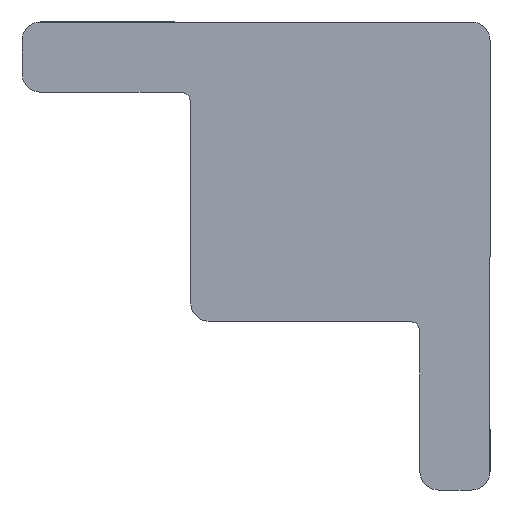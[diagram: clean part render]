
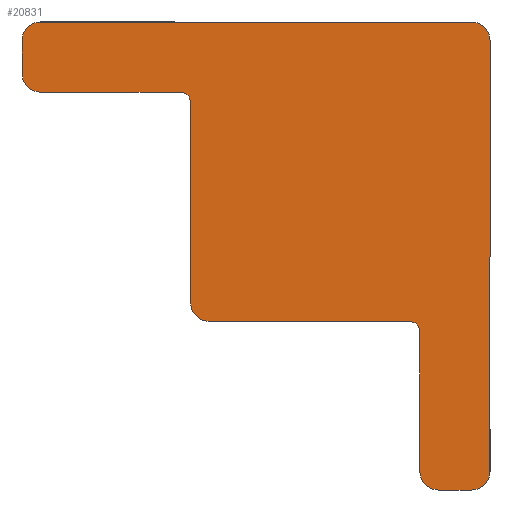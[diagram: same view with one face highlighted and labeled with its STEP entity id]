
A CAD part, front view. The second image highlights one B-rep face of the part: STEP entity #20831.
In plain terms, the highlighted planar face has unit normal (0, -1, 0).
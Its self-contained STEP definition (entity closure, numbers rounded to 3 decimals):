
#841=CARTESIAN_POINT(' ',(0.,0.,-2.));
#842=VERTEX_POINT(' ',#841);
#856=CARTESIAN_POINT(' ',(0.,0.,-2.));
#861=DIRECTION(' ',(0.,0.,-1.));
#866=VECTOR(' ',#861,1.);
#871=LINE('',#856,#866);
#876=CARTESIAN_POINT(' ',(0.,0.,-48.));
#877=VERTEX_POINT(' ',#876);
#881=EDGE_CURVE(' ',#842,#877,#871,.T.);
#19366=CARTESIAN_POINT(' ',(-2.,0.,-48.));
#19371=DIRECTION(' ',(-0.,-1.,0.));
#19376=DIRECTION(' ',(0.,0.,-1.));
#19381=AXIS2_PLACEMENT_3D(' ',#19366,#19371,#19376);
#19386=CIRCLE('',#19381,2.);
#19391=CARTESIAN_POINT(' ',(-2.,0.,-50.));
#19392=VERTEX_POINT(' ',#19391);
#19396=EDGE_CURVE(' ',#19392,#877,#19386,.T.);
#20231=CARTESIAN_POINT(' ',(-2.,0.,0.));
#20232=VERTEX_POINT(' ',#20231);
#20246=CARTESIAN_POINT(' ',(-2.,0.,-2.));
#20251=DIRECTION(' ',(-0.,-1.,-0.));
#20256=DIRECTION(' ',(1.,0.,0.));
#20261=AXIS2_PLACEMENT_3D(' ',#20246,#20251,#20256);
#20266=CIRCLE('',#20261,2.);
#20271=EDGE_CURVE(' ',#842,#20232,#20266,.T.);
#20301=DIRECTION(' ',(0.,-1.,0.));
#20306=CARTESIAN_POINT(' ',(-50.,0.,0.));
#20311=DIRECTION(' ',(0.,0.,-1.));
#20316=AXIS2_PLACEMENT_3D(' ',#20306,#20301,#20311);
#20321=PLANE('NONE',#20316);
#20326=CARTESIAN_POINT(' ',(-32.,0.,-30.));
#20331=DIRECTION(' ',(0.,0.,1.));
#20336=VECTOR(' ',#20331,1.);
#20341=LINE('',#20326,#20336);
#20346=CARTESIAN_POINT(' ',(-32.,0.,-30.));
#20347=VERTEX_POINT(' ',#20346);
#20351=CARTESIAN_POINT(' ',(-32.,0.,-8.5));
#20352=VERTEX_POINT(' ',#20351);
#20356=EDGE_CURVE(' ',#20347,#20352,#20341,.T.);
#20361=ORIENTED_EDGE(' ',*,*,#20356,.F.);
#20366=CARTESIAN_POINT(' ',(-30.,0.,-30.));
#20371=DIRECTION(' ',(0.,-1.,0.));
#20376=DIRECTION(' ',(-1.,0.,0.));
#20381=AXIS2_PLACEMENT_3D(' ',#20366,#20371,#20376);
#20386=CIRCLE('',#20381,2.);
#20391=CARTESIAN_POINT(' ',(-30.,0.,-32.));
#20392=VERTEX_POINT(' ',#20391);
#20396=EDGE_CURVE(' ',#20347,#20392,#20386,.T.);
#20401=ORIENTED_EDGE(' ',*,*,#20396,.T.);
#20406=CARTESIAN_POINT(' ',(-8.5,0.,-32.));
#20411=DIRECTION(' ',(-1.,0.,0.));
#20416=VECTOR(' ',#20411,1.);
#20421=LINE('',#20406,#20416);
#20426=CARTESIAN_POINT(' ',(-8.5,0.,-32.));
#20427=VERTEX_POINT(' ',#20426);
#20431=EDGE_CURVE(' ',#20427,#20392,#20421,.T.);
#20436=ORIENTED_EDGE(' ',*,*,#20431,.F.);
#20441=CARTESIAN_POINT(' ',(-8.5,0.,-33.));
#20446=DIRECTION(' ',(0.,1.,0.));
#20451=DIRECTION(' ',(0.,0.,1.));
#20456=AXIS2_PLACEMENT_3D(' ',#20441,#20446,#20451);
#20461=CIRCLE('',#20456,1.);
#20466=CARTESIAN_POINT(' ',(-7.5,0.,-33.));
#20467=VERTEX_POINT(' ',#20466);
#20471=EDGE_CURVE(' ',#20427,#20467,#20461,.T.);
#20476=ORIENTED_EDGE(' ',*,*,#20471,.T.);
#20481=CARTESIAN_POINT(' ',(-7.5,0.,-48.));
#20486=DIRECTION(' ',(0.,0.,1.));
#20491=VECTOR(' ',#20486,1.);
#20496=LINE('',#20481,#20491);
#20501=CARTESIAN_POINT(' ',(-7.5,0.,-48.));
#20502=VERTEX_POINT(' ',#20501);
#20506=EDGE_CURVE(' ',#20502,#20467,#20496,.T.);
#20511=ORIENTED_EDGE(' ',*,*,#20506,.F.);
#20516=CARTESIAN_POINT(' ',(-5.5,0.,-48.));
#20521=DIRECTION(' ',(0.,-1.,0.));
#20526=DIRECTION(' ',(-1.,0.,0.));
#20531=AXIS2_PLACEMENT_3D(' ',#20516,#20521,#20526);
#20536=CIRCLE('',#20531,2.);
#20541=CARTESIAN_POINT(' ',(-5.5,0.,-50.));
#20542=VERTEX_POINT(' ',#20541);
#20546=EDGE_CURVE(' ',#20502,#20542,#20536,.T.);
#20551=ORIENTED_EDGE(' ',*,*,#20546,.T.);
#20556=CARTESIAN_POINT(' ',(-2.,0.,-50.));
#20561=DIRECTION(' ',(-1.,0.,0.));
#20566=VECTOR(' ',#20561,1.);
#20571=LINE('',#20556,#20566);
#20576=EDGE_CURVE(' ',#19392,#20542,#20571,.T.);
#20581=ORIENTED_EDGE(' ',*,*,#20576,.F.);
#20586=ORIENTED_EDGE(' ',*,*,#19396,.T.);
#20591=ORIENTED_EDGE(' ',*,*,#881,.F.);
#20596=ORIENTED_EDGE(' ',*,*,#20271,.T.);
#20601=CARTESIAN_POINT(' ',(-48.,0.,0.));
#20606=DIRECTION(' ',(1.,0.,0.));
#20611=VECTOR(' ',#20606,1.);
#20616=LINE('',#20601,#20611);
#20621=CARTESIAN_POINT(' ',(-48.,0.,0.));
#20622=VERTEX_POINT(' ',#20621);
#20626=EDGE_CURVE(' ',#20622,#20232,#20616,.T.);
#20631=ORIENTED_EDGE(' ',*,*,#20626,.F.);
#20636=CARTESIAN_POINT(' ',(-48.,0.,-2.));
#20641=DIRECTION(' ',(0.,-1.,-0.));
#20646=DIRECTION(' ',(0.,0.,1.));
#20651=AXIS2_PLACEMENT_3D(' ',#20636,#20641,#20646);
#20656=CIRCLE('',#20651,2.);
#20661=CARTESIAN_POINT(' ',(-50.,0.,-2.));
#20662=VERTEX_POINT(' ',#20661);
#20666=EDGE_CURVE(' ',#20622,#20662,#20656,.T.);
#20671=ORIENTED_EDGE(' ',*,*,#20666,.T.);
#20676=CARTESIAN_POINT(' ',(-50.,0.,-5.5));
#20681=DIRECTION(' ',(0.,0.,1.));
#20686=VECTOR(' ',#20681,1.);
#20691=LINE('',#20676,#20686);
#20696=CARTESIAN_POINT(' ',(-50.,0.,-5.5));
#20697=VERTEX_POINT(' ',#20696);
#20701=EDGE_CURVE(' ',#20697,#20662,#20691,.T.);
#20706=ORIENTED_EDGE(' ',*,*,#20701,.F.);
#20711=CARTESIAN_POINT(' ',(-48.,0.,-5.5));
#20716=DIRECTION(' ',(0.,-1.,0.));
#20721=DIRECTION(' ',(-1.,0.,0.));
#20726=AXIS2_PLACEMENT_3D(' ',#20711,#20716,#20721);
#20731=CIRCLE('',#20726,2.);
#20736=CARTESIAN_POINT(' ',(-48.,0.,-7.5));
#20737=VERTEX_POINT(' ',#20736);
#20741=EDGE_CURVE(' ',#20697,#20737,#20731,.T.);
#20746=ORIENTED_EDGE(' ',*,*,#20741,.T.);
#20751=CARTESIAN_POINT(' ',(-33.,0.,-7.5));
#20756=DIRECTION(' ',(-1.,0.,0.));
#20761=VECTOR(' ',#20756,1.);
#20766=LINE('',#20751,#20761);
#20771=CARTESIAN_POINT(' ',(-33.,0.,-7.5));
#20772=VERTEX_POINT(' ',#20771);
#20776=EDGE_CURVE(' ',#20772,#20737,#20766,.T.);
#20781=ORIENTED_EDGE(' ',*,*,#20776,.F.);
#20786=CARTESIAN_POINT(' ',(-33.,0.,-8.5));
#20791=DIRECTION(' ',(0.,1.,0.));
#20796=DIRECTION(' ',(0.,0.,1.));
#20801=AXIS2_PLACEMENT_3D(' ',#20786,#20791,#20796);
#20806=CIRCLE('',#20801,1.);
#20811=EDGE_CURVE(' ',#20772,#20352,#20806,.T.);
#20816=ORIENTED_EDGE(' ',*,*,#20811,.T.);
#20821=EDGE_LOOP(' ',(#20361,#20401,#20436,#20476,#20511,#20551,#20581,#20586,#20591,#20596,#20631,#20671,#20706,#20746,#20781,#20816));
#20826=FACE_OUTER_BOUND(' ',#20821,.T.);
#20831=ADVANCED_FACE('NONE',(#20826),#20321,.T.);
